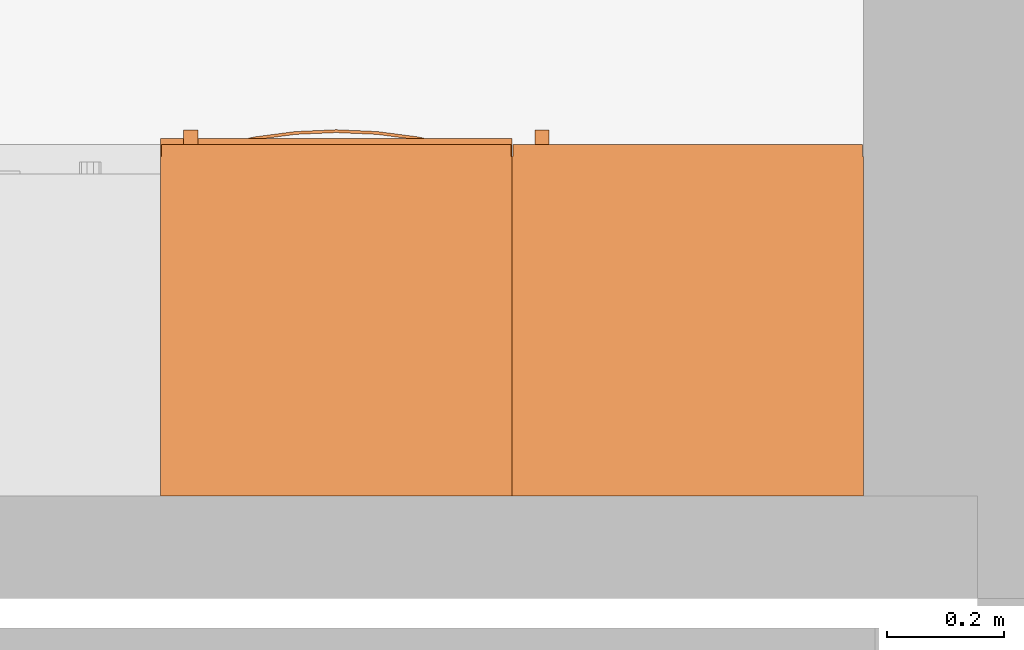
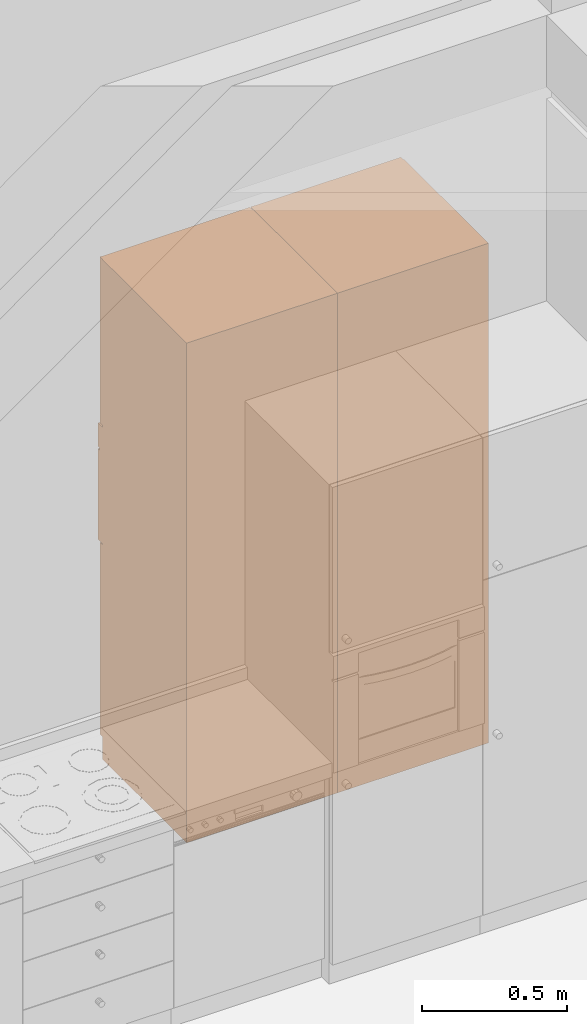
# One storey, part 26 of 28: 2 proxies.
"""IFC4 building model written with IfcOpenShell, lengths in metres."""

from ifc_helpers import new_model, entity, si_unit, converted_unit, derived_unit, direction, frame, origin_with_axes, place, context, subcontext, project, spatial, triangles, type_object, element, save


model = new_model("IFC4")

# Units and contexts
model_context = context("Model", 3, precision=1e-05, world=origin_with_axes(), true_north=direction((-0.526213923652, 0.850352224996)))
body_context = subcontext(model_context, "Body", "Model", "MODEL_VIEW")
ifc_project = project(units=[si_unit("LENGTHUNIT", "METRE"), si_unit("AREAUNIT", "SQUARE_METRE"), si_unit("VOLUMEUNIT", "CUBIC_METRE"), converted_unit("PLANEANGLEUNIT", "DEGREE", entity("IfcPlaneAngleMeasure", 0.0174532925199), si_unit("PLANEANGLEUNIT", "RADIAN"), dimensions=[0, 0, 0, 0, 0, 0, 0]), si_unit("SOLIDANGLEUNIT", "STERADIAN"), converted_unit("TIMEUNIT", "Year", entity("IfcTimeMeasure", 31556926.0), si_unit("TIMEUNIT", "SECOND"), dimensions=[0, 0, 1, 0, 0, 0, 0]), si_unit("MASSUNIT", "GRAM", prefix="KILO"), si_unit("THERMODYNAMICTEMPERATUREUNIT", "DEGREE_CELSIUS"), si_unit("LUMINOUSINTENSITYUNIT", "LUMEN"), si_unit("ENERGYUNIT", "JOULE", prefix="MEGA"), derived_unit("THERMALCONDUCTANCEUNIT", [(si_unit("POWERUNIT", "WATT"), 1), (si_unit("LENGTHUNIT", "METRE"), -1), (si_unit("THERMODYNAMICTEMPERATUREUNIT", "KELVIN"), -1)]), derived_unit("SPECIFICHEATCAPACITYUNIT", [(si_unit("ENERGYUNIT", "JOULE"), 1), (si_unit("MASSUNIT", "GRAM", prefix="KILO"), -1), (si_unit("THERMODYNAMICTEMPERATUREUNIT", "KELVIN"), -1)]), derived_unit("MASSDENSITYUNIT", [(si_unit("MASSUNIT", "GRAM", prefix="KILO"), 1), (si_unit("VOLUMEUNIT", "CUBIC_METRE"), -1)])], contexts=[model_context])

# Site, building, storey, space
site_placement = place(None, origin_with_axes())
site = spatial("IfcSite", under=ifc_project, at=site_placement, Name="Gelände", CompositionType="ELEMENT")
building_placement = place(site_placement, origin_with_axes())
building = spatial("IfcBuilding", under=site, at=building_placement, Name="Haus vom Nikolaus", CompositionType="ELEMENT")
storey_placement = place(building_placement, origin_with_axes())
storey = spatial("IfcBuildingStorey", under=building, at=storey_placement, Name="EG", CompositionType="ELEMENT", Elevation=0.0)
space_placement = place(storey_placement, frame((-3.09538684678, 5.36483190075, 0.0), z_axis=(0.0, 0.0, 1.0), x_axis=(1.0, 0.0, 0.0)))
space = spatial("IfcSpace", under=storey, at=space_placement, Name="EG", CompositionType="ELEMENT")

# Proxies
building_element_proxy_type_1 = type_object("IfcBuildingElementProxyType", Name="Hochschrank Einzeltür 22", PredefinedType="NOTDEFINED")
proxy_1_placement = place(space_placement, frame((14.1603844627, 2.87500017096, 0.2), z_axis=(0.0, 0.0, 1.0), x_axis=(-1.0, 0.0, 0.0)))
element("IfcBuildingElementProxy", 1, at=proxy_1_placement, inside=space, type_object=building_element_proxy_type_1, Name="Küche-009", PredefinedType="NOTDEFINED", context=body_context, shape_type="Tessellation", body=[
    triangles([(0.58, 0.02, 1.51), (0.02, 0.02, 1.49), (0.58, 0.02, 1.49), (0.02, 0.02, 1.51), (0.58, 0.58, 1.49), (0.02, 0.58, 1.49), (0.58, 0.58, 1.51), (0.02, 0.58, 1.51)], [[1, 2, 3], [1, 4, 2], [5, 2, 6], [5, 3, 2], [7, 3, 5], [7, 1, 3], [7, 4, 1], [7, 8, 4], [4, 6, 2], [4, 8, 6], [8, 5, 6], [8, 7, 5]], closed=True),
    triangles([(0.6, 0.02, 0.09), (0.0, 0.02, 0.0), (0.6, 0.02, 0.0), (0.0, 0.02, 0.09), (0.6, 0.6, 0.0), (0.0, 0.6, 0.0), (0.6, 0.6, 0.09), (0.0, 0.6, 0.09)], [[1, 2, 3], [1, 4, 2], [5, 2, 6], [5, 3, 2], [7, 3, 5], [7, 1, 3], [7, 4, 1], [7, 8, 4], [4, 6, 2], [4, 8, 6], [8, 5, 6], [8, 7, 5]], closed=True),
    triangles([(0.02, 0.02, 2.1), (0.0, 0.02, 2.08), (0.02, 0.02, 2.08), (0.0, 0.02, 2.1), (0.02, 0.6, 2.08), (0.58, 0.02, 2.08), (0.58, 0.6, 2.08), (0.0, 0.6, 2.08), (0.6, 0.02, 2.08), (0.6, 0.6, 2.08), (0.58, 0.02, 2.1), (0.0, 0.6, 2.1), (0.02, 0.6, 2.1), (0.58, 0.6, 2.1), (0.6, 0.6, 2.1), (0.6, 0.02, 2.1)], [[1, 2, 3], [1, 4, 2], [3, 2, 5], [6, 5, 7], [5, 2, 8], [9, 7, 10], [6, 7, 9], [3, 5, 6], [11, 3, 6], [11, 1, 3], [12, 4, 13], [14, 11, 15], [11, 14, 1], [15, 11, 16], [1, 13, 4], [13, 1, 14], [4, 8, 2], [4, 12, 8], [12, 5, 8], [12, 13, 5], [13, 7, 5], [13, 14, 7], [14, 10, 7], [14, 15, 10], [15, 9, 10], [15, 16, 9], [16, 6, 9], [16, 11, 6]], closed=True),
    triangles([(0.02, 0.02, 0.11), (0.0, 0.02, 0.09), (0.02, 0.02, 0.09), (0.0, 0.02, 0.11), (0.02, 0.6, 0.09), (0.58, 0.02, 0.09), (0.58, 0.6, 0.09), (0.0, 0.6, 0.09), (0.6, 0.02, 0.09), (0.6, 0.6, 0.09), (0.58, 0.02, 0.11), (0.0, 0.6, 0.11), (0.02, 0.6, 0.11), (0.58, 0.6, 0.11), (0.6, 0.6, 0.11), (0.6, 0.02, 0.11)], [[1, 2, 3], [1, 4, 2], [3, 2, 5], [6, 5, 7], [5, 2, 8], [9, 7, 10], [6, 7, 9], [3, 5, 6], [11, 3, 6], [11, 1, 3], [12, 4, 13], [14, 11, 15], [11, 14, 1], [15, 11, 16], [1, 13, 4], [13, 1, 14], [4, 8, 2], [4, 12, 8], [12, 5, 8], [12, 13, 5], [13, 7, 5], [13, 14, 7], [14, 10, 7], [14, 15, 10], [15, 9, 10], [15, 16, 9], [16, 6, 9], [16, 11, 6]], closed=True),
    triangles([(0.02, 0.02, 2.08), (0.0, 0.02, 0.11), (0.02, 0.02, 0.11), (0.0, 0.02, 2.08), (0.02, 0.58, 0.11), (0.58, 0.58, 0.11), (0.6, 0.02, 0.11), (0.58, 0.02, 0.11), (0.0, 0.6, 0.11), (0.6, 0.6, 0.11), (0.02, 0.58, 2.08), (0.0, 0.6, 2.08), (0.6, 0.6, 2.08), (0.58, 0.58, 2.08), (0.6, 0.02, 2.08), (0.58, 0.02, 2.08)], [[1, 2, 3], [1, 4, 2], [3, 2, 5], [6, 7, 8], [6, 9, 10], [7, 6, 10], [5, 2, 9], [6, 5, 9], [11, 3, 5], [11, 1, 3], [12, 4, 11], [13, 12, 11], [11, 4, 1], [13, 11, 14], [15, 13, 14], [15, 14, 16], [4, 9, 2], [4, 12, 9], [12, 10, 9], [12, 13, 10], [13, 7, 10], [13, 15, 7], [15, 8, 7], [15, 16, 8], [16, 6, 8], [16, 14, 6], [14, 5, 6], [14, 11, 5]], closed=True),
    triangles([(0.58, 0.58, 0.566666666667), (0.58, 0.02, 0.546666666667), (0.58, 0.58, 0.546666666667), (0.58, 0.02, 0.566666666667), (0.02, 0.58, 0.546666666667), (0.02, 0.02, 0.546666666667), (0.02, 0.58, 0.566666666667), (0.02, 0.02, 0.566666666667)], [[1, 2, 3], [1, 4, 2], [5, 2, 6], [5, 3, 2], [7, 3, 5], [7, 1, 3], [7, 4, 1], [7, 8, 4], [4, 6, 2], [4, 8, 6], [8, 5, 6], [8, 7, 5]], closed=True),
    triangles([(0.58, 0.58, 1.04333333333), (0.58, 0.02, 1.02333333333), (0.58, 0.58, 1.02333333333), (0.58, 0.02, 1.04333333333), (0.02, 0.58, 1.02333333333), (0.02, 0.02, 1.02333333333), (0.02, 0.58, 1.04333333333), (0.02, 0.02, 1.04333333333)], [[1, 2, 3], [1, 4, 2], [5, 2, 6], [5, 3, 2], [7, 3, 5], [7, 1, 3], [7, 4, 1], [7, 8, 4], [4, 6, 2], [4, 8, 6], [8, 5, 6], [8, 7, 5]], closed=True),
    triangles([(0.5985, 0.0, 0.0915), (0.0015, 0.02, 0.0915), (0.5985, 0.02, 0.0915), (0.0015, 0.0, 0.0915), (0.5985, 0.02, 1.4985), (0.0015, 0.02, 1.4985), (0.5985, 0.0, 1.4985), (0.0015, 0.0, 1.4985)], [[1, 2, 3], [1, 4, 2], [5, 2, 6], [5, 3, 2], [7, 3, 5], [7, 1, 3], [7, 4, 1], [7, 8, 4], [4, 6, 2], [4, 8, 6], [8, 5, 6], [8, 7, 5]], closed=True),
    triangles([(0.538107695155, 0.0, 0.8355), (0.5365, 0.0, 0.8415), (0.540014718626, 0.0, 0.833014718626), (0.551605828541, 0.0, 0.829908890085), (0.556985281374, 0.0, 0.833014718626), (0.5545, 0.0, 0.831107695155), (0.560091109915, 0.0, 0.838394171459), (0.558892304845, 0.0, 0.8355), (0.5485, 0.0, 0.8295), (0.545394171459, 0.0, 0.829908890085), (0.5425, 0.0, 0.831107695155), (0.540014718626, 0.0, 0.849985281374), (0.536908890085, 0.0, 0.844605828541), (0.538107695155, 0.0, 0.8475), (0.536908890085, 0.0, 0.838394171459), (0.556985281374, 0.0, 0.849985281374), (0.545394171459, 0.0, 0.853091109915), (0.551605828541, 0.0, 0.853091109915), (0.5425, 0.0, 0.851892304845), (0.5485, 0.0, 0.8535), (0.5545, 0.0, 0.851892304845), (0.560091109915, 0.0, 0.844605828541), (0.558892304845, 0.0, 0.8475), (0.5605, 0.0, 0.8415), (0.560091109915, -0.025, 0.838394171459), (0.558892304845, -0.025, 0.8355), (0.556985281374, -0.025, 0.833014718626), (0.5545, -0.025, 0.831107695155), (0.551605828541, -0.025, 0.829908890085), (0.5485, -0.025, 0.8295), (0.545394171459, -0.025, 0.829908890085), (0.5425, -0.025, 0.831107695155), (0.540014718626, -0.025, 0.833014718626), (0.538107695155, -0.025, 0.8355), (0.536908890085, -0.025, 0.838394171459), (0.5365, -0.025, 0.8415), (0.536908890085, -0.025, 0.844605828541), (0.538107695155, -0.025, 0.8475), (0.540014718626, -0.025, 0.849985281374), (0.5425, -0.025, 0.851892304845), (0.545394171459, -0.025, 0.853091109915), (0.5485, -0.025, 0.8535), (0.551605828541, -0.025, 0.853091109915), (0.5545, -0.025, 0.851892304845), (0.556985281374, -0.025, 0.849985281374), (0.558892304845, -0.025, 0.8475), (0.560091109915, -0.025, 0.844605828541), (0.5605, -0.025, 0.8415)], [[1, 2, 3], [4, 5, 6], [5, 7, 8], [9, 5, 4], [3, 10, 11], [10, 3, 9], [9, 3, 5], [12, 13, 14], [13, 12, 2], [2, 1, 15], [2, 12, 3], [16, 3, 12], [16, 17, 18], [17, 12, 19], [18, 17, 20], [17, 16, 12], [16, 18, 21], [3, 16, 5], [22, 5, 16], [22, 16, 23], [5, 22, 7], [24, 7, 22], [25, 8, 7], [25, 26, 8], [26, 5, 8], [26, 27, 5], [27, 6, 5], [27, 28, 6], [28, 4, 6], [28, 29, 4], [29, 9, 4], [29, 30, 9], [30, 10, 9], [30, 31, 10], [31, 11, 10], [31, 32, 11], [32, 3, 11], [32, 33, 3], [33, 1, 3], [33, 34, 1], [34, 15, 1], [34, 35, 15], [35, 2, 15], [35, 36, 2], [36, 13, 2], [36, 37, 13], [37, 14, 13], [37, 38, 14], [38, 12, 14], [38, 39, 12], [39, 19, 12], [39, 40, 19], [40, 17, 19], [40, 41, 17], [41, 20, 17], [41, 42, 20], [42, 18, 20], [42, 43, 18], [43, 21, 18], [43, 44, 21], [44, 16, 21], [44, 45, 16], [45, 23, 16], [45, 46, 23], [46, 22, 23], [46, 47, 22], [47, 24, 22], [47, 48, 24], [25, 24, 48], [24, 25, 7], [36, 33, 39], [45, 48, 46], [46, 48, 47], [27, 48, 45], [42, 44, 43], [44, 42, 45], [40, 42, 41], [42, 40, 45], [37, 39, 38], [39, 45, 40], [36, 39, 37], [33, 36, 35], [33, 35, 34], [39, 33, 45], [30, 27, 33], [31, 33, 32], [27, 30, 29], [30, 33, 31], [33, 27, 45], [27, 29, 28], [48, 27, 25], [26, 25, 27]], closed=True),
    triangles([(0.5985, 0.0, 1.5015), (0.0015, 0.02, 1.5015), (0.5985, 0.02, 1.5015), (0.0015, 0.0, 1.5015), (0.5985, 0.02, 2.0985), (0.0015, 0.02, 2.0985), (0.5985, 0.0, 2.0985), (0.0015, 0.0, 2.0985)], [[1, 2, 3], [1, 4, 2], [5, 2, 6], [5, 3, 2], [7, 3, 5], [7, 1, 3], [7, 4, 1], [7, 8, 4], [4, 6, 2], [4, 8, 6], [8, 5, 6], [8, 7, 5]], closed=True),
    triangles([(0.5365, 0.0, 1.5515), (0.538107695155, 0.0, 1.5455), (0.536908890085, 0.0, 1.54839417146), (0.551605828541, 0.0, 1.53990889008), (0.556985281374, 0.0, 1.54301471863), (0.5545, 0.0, 1.54110769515), (0.560091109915, 0.0, 1.54839417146), (0.558892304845, 0.0, 1.5455), (0.545394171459, 0.0, 1.53990889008), (0.5485, 0.0, 1.5395), (0.540014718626, 0.0, 1.54301471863), (0.5425, 0.0, 1.54110769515), (0.538107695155, 0.0, 1.5575), (0.536908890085, 0.0, 1.55460582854), (0.551605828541, 0.0, 1.56309110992), (0.5485, 0.0, 1.5635), (0.540014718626, 0.0, 1.55998528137), (0.5425, 0.0, 1.56189230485), (0.545394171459, 0.0, 1.56309110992), (0.560091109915, 0.0, 1.55460582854), (0.5545, 0.0, 1.56189230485), (0.556985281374, 0.0, 1.55998528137), (0.558892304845, 0.0, 1.5575), (0.5605, 0.0, 1.5515), (0.560091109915, -0.025, 1.54839417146), (0.558892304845, -0.025, 1.5455), (0.556985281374, -0.025, 1.54301471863), (0.5545, -0.025, 1.54110769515), (0.551605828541, -0.025, 1.53990889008), (0.5485, -0.025, 1.5395), (0.545394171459, -0.025, 1.53990889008), (0.5425, -0.025, 1.54110769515), (0.540014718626, -0.025, 1.54301471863), (0.538107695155, -0.025, 1.5455), (0.536908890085, -0.025, 1.54839417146), (0.5365, -0.025, 1.5515), (0.536908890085, -0.025, 1.55460582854), (0.538107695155, -0.025, 1.5575), (0.540014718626, -0.025, 1.55998528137), (0.5425, -0.025, 1.56189230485), (0.545394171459, -0.025, 1.56309110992), (0.5485, -0.025, 1.5635), (0.551605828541, -0.025, 1.56309110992), (0.5545, -0.025, 1.56189230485), (0.556985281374, -0.025, 1.55998528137), (0.558892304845, -0.025, 1.5575), (0.560091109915, -0.025, 1.55460582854), (0.5605, -0.025, 1.5515)], [[1, 2, 3], [4, 5, 6], [5, 7, 8], [5, 4, 7], [9, 4, 10], [11, 9, 12], [9, 11, 4], [4, 11, 7], [13, 1, 14], [15, 2, 16], [1, 13, 2], [16, 13, 17], [13, 16, 2], [16, 18, 19], [18, 16, 17], [2, 15, 11], [20, 15, 21], [20, 11, 15], [20, 21, 22], [20, 22, 23], [24, 11, 20], [11, 24, 7], [25, 8, 7], [25, 26, 8], [26, 5, 8], [26, 27, 5], [27, 6, 5], [27, 28, 6], [28, 4, 6], [28, 29, 4], [29, 10, 4], [29, 30, 10], [30, 9, 10], [30, 31, 9], [31, 12, 9], [31, 32, 12], [32, 11, 12], [32, 33, 11], [33, 2, 11], [33, 34, 2], [34, 3, 2], [34, 35, 3], [35, 1, 3], [35, 36, 1], [36, 14, 1], [36, 37, 14], [37, 13, 14], [37, 38, 13], [38, 17, 13], [38, 39, 17], [39, 18, 17], [39, 40, 18], [40, 19, 18], [40, 41, 19], [41, 16, 19], [41, 42, 16], [42, 15, 16], [42, 43, 15], [43, 21, 15], [43, 44, 21], [44, 22, 21], [44, 45, 22], [46, 22, 45], [22, 46, 23], [46, 20, 23], [46, 47, 20], [47, 24, 20], [47, 48, 24], [48, 7, 24], [48, 25, 7], [37, 39, 38], [43, 46, 45], [43, 28, 47], [43, 45, 44], [46, 43, 47], [33, 28, 34], [41, 43, 42], [34, 37, 36], [39, 37, 41], [39, 41, 40], [37, 34, 41], [28, 33, 30], [34, 36, 35], [34, 28, 41], [41, 28, 43], [30, 33, 32], [27, 47, 28], [30, 32, 31], [28, 30, 29], [47, 27, 48], [26, 48, 27], [48, 26, 25]], closed=True),
])
building_element_proxy_type_2 = type_object("IfcBuildingElementProxyType", Name="Hochschrank Einzeltür mit Backofen 22", PredefinedType="NOTDEFINED")
proxy_2_placement = place(space_placement, frame((13.5603844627, 2.87500017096, 0.2), z_axis=(0.0, 0.0, 1.0), x_axis=(-1.0, 0.0, 0.0)))
element("IfcBuildingElementProxy", 2, at=proxy_2_placement, inside=space, type_object=building_element_proxy_type_2, Name="Küche-008", PredefinedType="NOTDEFINED", context=body_context, shape_type="Tessellation", body=[
    triangles([(0.58, 0.02, 1.41), (0.02, 0.02, 1.39), (0.58, 0.02, 1.39), (0.02, 0.02, 1.41), (0.58, 0.58, 1.39), (0.02, 0.58, 1.39), (0.58, 0.58, 1.41), (0.02, 0.58, 1.41)], [[1, 2, 3], [1, 4, 2], [5, 2, 6], [5, 3, 2], [7, 3, 5], [7, 1, 3], [7, 4, 1], [7, 8, 4], [4, 6, 2], [4, 8, 6], [8, 5, 6], [8, 7, 5]], closed=True),
    triangles([(0.58, 0.02, 0.91), (0.02, 0.02, 0.89), (0.58, 0.02, 0.89), (0.02, 0.02, 0.91), (0.58, 0.58, 0.89), (0.02, 0.58, 0.89), (0.58, 0.58, 0.91), (0.02, 0.58, 0.91)], [[1, 2, 3], [1, 4, 2], [5, 2, 6], [5, 3, 2], [7, 3, 5], [7, 1, 3], [7, 4, 1], [7, 8, 4], [4, 6, 2], [4, 8, 6], [8, 5, 6], [8, 7, 5]], closed=True),
    triangles([(0.6, 0.02, 0.09), (0.0, 0.02, 0.0), (0.6, 0.02, 0.0), (0.0, 0.02, 0.09), (0.6, 0.6, 0.0), (0.0, 0.6, 0.0), (0.6, 0.6, 0.09), (0.0, 0.6, 0.09)], [[1, 2, 3], [1, 4, 2], [5, 2, 6], [5, 3, 2], [7, 3, 5], [7, 1, 3], [7, 4, 1], [7, 8, 4], [4, 6, 2], [4, 8, 6], [8, 5, 6], [8, 7, 5]], closed=True),
    triangles([(0.02, 0.02, 2.1), (0.0, 0.02, 2.08), (0.02, 0.02, 2.08), (0.0, 0.02, 2.1), (0.02, 0.6, 2.08), (0.58, 0.02, 2.08), (0.58, 0.6, 2.08), (0.0, 0.6, 2.08), (0.6, 0.02, 2.08), (0.6, 0.6, 2.08), (0.58, 0.02, 2.1), (0.0, 0.6, 2.1), (0.02, 0.6, 2.1), (0.58, 0.6, 2.1), (0.6, 0.6, 2.1), (0.6, 0.02, 2.1)], [[1, 2, 3], [1, 4, 2], [3, 2, 5], [6, 5, 7], [5, 2, 8], [9, 7, 10], [6, 7, 9], [3, 5, 6], [11, 3, 6], [11, 1, 3], [12, 4, 13], [14, 11, 15], [11, 14, 1], [15, 11, 16], [1, 13, 4], [13, 1, 14], [4, 8, 2], [4, 12, 8], [12, 5, 8], [12, 13, 5], [13, 7, 5], [13, 14, 7], [14, 10, 7], [14, 15, 10], [15, 9, 10], [15, 16, 9], [16, 6, 9], [16, 11, 6]], closed=True),
    triangles([(0.02, 0.02, 0.11), (0.0, 0.02, 0.09), (0.02, 0.02, 0.09), (0.0, 0.02, 0.11), (0.02, 0.6, 0.09), (0.58, 0.02, 0.09), (0.58, 0.6, 0.09), (0.0, 0.6, 0.09), (0.6, 0.02, 0.09), (0.6, 0.6, 0.09), (0.58, 0.02, 0.11), (0.0, 0.6, 0.11), (0.02, 0.6, 0.11), (0.58, 0.6, 0.11), (0.6, 0.6, 0.11), (0.6, 0.02, 0.11)], [[1, 2, 3], [1, 4, 2], [3, 2, 5], [6, 5, 7], [5, 2, 8], [9, 7, 10], [6, 7, 9], [3, 5, 6], [11, 3, 6], [11, 1, 3], [12, 4, 13], [14, 11, 15], [11, 14, 1], [15, 11, 16], [1, 13, 4], [13, 1, 14], [4, 8, 2], [4, 12, 8], [12, 5, 8], [12, 13, 5], [13, 7, 5], [13, 14, 7], [14, 10, 7], [14, 15, 10], [15, 9, 10], [15, 16, 9], [16, 6, 9], [16, 11, 6]], closed=True),
    triangles([(0.02, 0.02, 2.08), (0.0, 0.02, 0.11), (0.02, 0.02, 0.11), (0.0, 0.02, 2.08), (0.02, 0.58, 0.11), (0.58, 0.58, 0.11), (0.6, 0.02, 0.11), (0.58, 0.02, 0.11), (0.0, 0.6, 0.11), (0.6, 0.6, 0.11), (0.02, 0.58, 2.08), (0.0, 0.6, 2.08), (0.6, 0.6, 2.08), (0.58, 0.58, 2.08), (0.6, 0.02, 2.08), (0.58, 0.02, 2.08)], [[1, 2, 3], [1, 4, 2], [3, 2, 5], [6, 7, 8], [6, 9, 10], [7, 6, 10], [5, 2, 9], [6, 5, 9], [11, 3, 5], [11, 1, 3], [12, 4, 11], [13, 12, 11], [11, 4, 1], [13, 11, 14], [15, 13, 14], [15, 14, 16], [4, 9, 2], [4, 12, 9], [12, 10, 9], [12, 13, 10], [13, 7, 10], [13, 15, 7], [15, 8, 7], [15, 16, 8], [16, 6, 8], [16, 14, 6], [14, 5, 6], [14, 11, 5]], closed=True),
    triangles([(0.58, 0.58, 0.366666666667), (0.58, 0.02, 0.346666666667), (0.58, 0.58, 0.346666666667), (0.58, 0.02, 0.366666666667), (0.02, 0.58, 0.346666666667), (0.02, 0.02, 0.346666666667), (0.02, 0.58, 0.366666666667), (0.02, 0.02, 0.366666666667)], [[1, 2, 3], [1, 4, 2], [5, 2, 6], [5, 3, 2], [7, 3, 5], [7, 1, 3], [7, 4, 1], [7, 8, 4], [4, 6, 2], [4, 8, 6], [8, 5, 6], [8, 7, 5]], closed=True),
    triangles([(0.58, 0.58, 0.643333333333), (0.58, 0.02, 0.623333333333), (0.58, 0.58, 0.623333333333), (0.58, 0.02, 0.643333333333), (0.02, 0.58, 0.623333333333), (0.02, 0.02, 0.623333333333), (0.02, 0.58, 0.643333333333), (0.02, 0.02, 0.643333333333)], [[1, 2, 3], [1, 4, 2], [5, 2, 6], [5, 3, 2], [7, 3, 5], [7, 1, 3], [7, 4, 1], [7, 8, 4], [4, 6, 2], [4, 8, 6], [8, 5, 6], [8, 7, 5]], closed=True),
    triangles([(0.5985, 0.0, 0.0915), (0.0015, 0.02, 0.0915), (0.5985, 0.02, 0.0915), (0.0015, 0.0, 0.0915), (0.5985, 0.02, 0.8985), (0.0015, 0.02, 0.8985), (0.5985, 0.0, 0.8985), (0.0015, 0.0, 0.8985)], [[1, 2, 3], [1, 4, 2], [5, 2, 6], [5, 3, 2], [7, 3, 5], [7, 1, 3], [7, 4, 1], [7, 8, 4], [4, 6, 2], [4, 8, 6], [8, 5, 6], [8, 7, 5]], closed=True),
    triangles([(0.538107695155, 0.0, 0.8355), (0.5365, 0.0, 0.8415), (0.540014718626, 0.0, 0.833014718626), (0.551605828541, 0.0, 0.829908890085), (0.556985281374, 0.0, 0.833014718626), (0.5545, 0.0, 0.831107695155), (0.560091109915, 0.0, 0.838394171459), (0.558892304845, 0.0, 0.8355), (0.5485, 0.0, 0.8295), (0.545394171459, 0.0, 0.829908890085), (0.5425, 0.0, 0.831107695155), (0.540014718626, 0.0, 0.849985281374), (0.536908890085, 0.0, 0.844605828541), (0.538107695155, 0.0, 0.8475), (0.536908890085, 0.0, 0.838394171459), (0.556985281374, 0.0, 0.849985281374), (0.545394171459, 0.0, 0.853091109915), (0.551605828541, 0.0, 0.853091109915), (0.5425, 0.0, 0.851892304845), (0.5485, 0.0, 0.8535), (0.5545, 0.0, 0.851892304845), (0.560091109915, 0.0, 0.844605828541), (0.558892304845, 0.0, 0.8475), (0.5605, 0.0, 0.8415), (0.560091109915, -0.025, 0.838394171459), (0.558892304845, -0.025, 0.8355), (0.556985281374, -0.025, 0.833014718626), (0.5545, -0.025, 0.831107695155), (0.551605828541, -0.025, 0.829908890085), (0.5485, -0.025, 0.8295), (0.545394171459, -0.025, 0.829908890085), (0.5425, -0.025, 0.831107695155), (0.540014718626, -0.025, 0.833014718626), (0.538107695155, -0.025, 0.8355), (0.536908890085, -0.025, 0.838394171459), (0.5365, -0.025, 0.8415), (0.536908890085, -0.025, 0.844605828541), (0.538107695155, -0.025, 0.8475), (0.540014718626, -0.025, 0.849985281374), (0.5425, -0.025, 0.851892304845), (0.545394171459, -0.025, 0.853091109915), (0.5485, -0.025, 0.8535), (0.551605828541, -0.025, 0.853091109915), (0.5545, -0.025, 0.851892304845), (0.556985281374, -0.025, 0.849985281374), (0.558892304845, -0.025, 0.8475), (0.560091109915, -0.025, 0.844605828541), (0.5605, -0.025, 0.8415)], [[1, 2, 3], [4, 5, 6], [5, 7, 8], [9, 5, 4], [3, 10, 11], [10, 3, 9], [9, 3, 5], [12, 13, 14], [13, 12, 2], [2, 1, 15], [2, 12, 3], [16, 3, 12], [16, 17, 18], [17, 12, 19], [18, 17, 20], [17, 16, 12], [16, 18, 21], [3, 16, 5], [22, 5, 16], [22, 16, 23], [5, 22, 7], [24, 7, 22], [25, 8, 7], [25, 26, 8], [26, 5, 8], [26, 27, 5], [27, 6, 5], [27, 28, 6], [28, 4, 6], [28, 29, 4], [29, 9, 4], [29, 30, 9], [30, 10, 9], [30, 31, 10], [31, 11, 10], [31, 32, 11], [32, 3, 11], [32, 33, 3], [33, 1, 3], [33, 34, 1], [34, 15, 1], [34, 35, 15], [35, 2, 15], [35, 36, 2], [36, 13, 2], [36, 37, 13], [37, 14, 13], [37, 38, 14], [38, 12, 14], [38, 39, 12], [39, 19, 12], [39, 40, 19], [40, 17, 19], [40, 41, 17], [41, 20, 17], [41, 42, 20], [42, 18, 20], [42, 43, 18], [43, 21, 18], [43, 44, 21], [44, 16, 21], [44, 45, 16], [45, 23, 16], [45, 46, 23], [46, 22, 23], [46, 47, 22], [47, 24, 22], [47, 48, 24], [25, 24, 48], [24, 25, 7], [36, 33, 39], [45, 48, 46], [46, 48, 47], [27, 48, 45], [42, 44, 43], [44, 42, 45], [40, 42, 41], [42, 40, 45], [37, 39, 38], [39, 45, 40], [36, 39, 37], [33, 36, 35], [33, 35, 34], [39, 33, 45], [30, 27, 33], [31, 33, 32], [27, 30, 29], [30, 33, 31], [33, 27, 45], [27, 29, 28], [48, 27, 25], [26, 25, 27]], closed=True),
    triangles([(0.5985, 0.0, 1.4015), (0.0015, 0.02, 1.4015), (0.5985, 0.02, 1.4015), (0.0015, 0.0, 1.4015), (0.5985, 0.02, 2.0985), (0.0015, 0.02, 2.0985), (0.5985, 0.0, 2.0985), (0.0015, 0.0, 2.0985)], [[1, 2, 3], [1, 4, 2], [5, 2, 6], [5, 3, 2], [7, 3, 5], [7, 1, 3], [7, 4, 1], [7, 8, 4], [4, 6, 2], [4, 8, 6], [8, 5, 6], [8, 7, 5]], closed=True),
    triangles([(0.5365, 0.0, 1.4515), (0.538107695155, 0.0, 1.4455), (0.536908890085, 0.0, 1.44839417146), (0.551605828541, 0.0, 1.43990889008), (0.556985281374, 0.0, 1.44301471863), (0.5545, 0.0, 1.44110769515), (0.560091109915, 0.0, 1.44839417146), (0.558892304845, 0.0, 1.4455), (0.545394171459, 0.0, 1.43990889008), (0.5485, 0.0, 1.4395), (0.540014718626, 0.0, 1.44301471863), (0.5425, 0.0, 1.44110769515), (0.538107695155, 0.0, 1.4575), (0.536908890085, 0.0, 1.45460582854), (0.551605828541, 0.0, 1.46309110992), (0.5485, 0.0, 1.4635), (0.540014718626, 0.0, 1.45998528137), (0.5425, 0.0, 1.46189230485), (0.545394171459, 0.0, 1.46309110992), (0.560091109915, 0.0, 1.45460582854), (0.5545, 0.0, 1.46189230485), (0.556985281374, 0.0, 1.45998528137), (0.558892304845, 0.0, 1.4575), (0.5605, 0.0, 1.4515), (0.560091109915, -0.025, 1.44839417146), (0.558892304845, -0.025, 1.4455), (0.556985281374, -0.025, 1.44301471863), (0.5545, -0.025, 1.44110769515), (0.551605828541, -0.025, 1.43990889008), (0.5485, -0.025, 1.4395), (0.545394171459, -0.025, 1.43990889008), (0.5425, -0.025, 1.44110769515), (0.540014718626, -0.025, 1.44301471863), (0.538107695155, -0.025, 1.4455), (0.536908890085, -0.025, 1.44839417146), (0.5365, -0.025, 1.4515), (0.536908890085, -0.025, 1.45460582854), (0.538107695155, -0.025, 1.4575), (0.540014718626, -0.025, 1.45998528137), (0.5425, -0.025, 1.46189230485), (0.545394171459, -0.025, 1.46309110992), (0.5485, -0.025, 1.4635), (0.551605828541, -0.025, 1.46309110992), (0.5545, -0.025, 1.46189230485), (0.556985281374, -0.025, 1.45998528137), (0.558892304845, -0.025, 1.4575), (0.560091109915, -0.025, 1.45460582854), (0.5605, -0.025, 1.4515)], [[1, 2, 3], [4, 5, 6], [5, 7, 8], [5, 4, 7], [9, 4, 10], [11, 9, 12], [9, 11, 4], [4, 11, 7], [13, 1, 14], [15, 2, 16], [1, 13, 2], [16, 13, 17], [13, 16, 2], [16, 18, 19], [18, 16, 17], [2, 15, 11], [20, 15, 21], [20, 11, 15], [20, 21, 22], [20, 22, 23], [24, 11, 20], [11, 24, 7], [25, 8, 7], [25, 26, 8], [27, 8, 26], [8, 27, 5], [27, 6, 5], [27, 28, 6], [28, 4, 6], [28, 29, 4], [29, 10, 4], [29, 30, 10], [30, 9, 10], [30, 31, 9], [31, 12, 9], [31, 32, 12], [32, 11, 12], [32, 33, 11], [33, 2, 11], [33, 34, 2], [34, 3, 2], [34, 35, 3], [35, 1, 3], [35, 36, 1], [36, 14, 1], [36, 37, 14], [37, 13, 14], [37, 38, 13], [38, 17, 13], [38, 39, 17], [39, 18, 17], [39, 40, 18], [40, 19, 18], [40, 41, 19], [41, 16, 19], [41, 42, 16], [42, 15, 16], [42, 43, 15], [43, 21, 15], [43, 44, 21], [44, 22, 21], [44, 45, 22], [45, 23, 22], [45, 46, 23], [46, 20, 23], [46, 47, 20], [47, 24, 20], [47, 48, 24], [48, 7, 24], [48, 25, 7], [37, 39, 38], [45, 48, 46], [46, 48, 47], [42, 45, 43], [43, 45, 44], [40, 45, 42], [40, 42, 41], [45, 40, 48], [39, 37, 40], [34, 40, 37], [34, 37, 35], [35, 37, 36], [40, 34, 48], [28, 30, 29], [30, 34, 33], [31, 33, 32], [30, 28, 34], [30, 33, 31], [34, 28, 48], [27, 48, 28], [48, 27, 25], [26, 25, 27]], closed=True),
    triangles([(0.6, 0.0, 0.905), (0.0, 0.02, 0.905), (0.6, 0.02, 0.905), (0.0, 0.0, 0.905), (0.11, 0.02, 1.003), (0.11, 0.02, 1.199), (0.0, 0.02, 1.395), (0.6, 0.02, 1.395), (0.49, 0.02, 1.199), (0.49, 0.02, 1.003), (0.6, 0.0, 1.395), (0.11, 0.0, 1.199), (0.11, 0.0, 1.003), (0.0, 0.0, 1.395), (0.49, 0.0, 1.199), (0.49, 0.0, 1.003)], [[1, 2, 3], [1, 4, 2], [5, 3, 2], [6, 2, 7], [6, 8, 9], [9, 3, 10], [5, 10, 3], [3, 9, 8], [2, 6, 5], [8, 6, 7], [11, 3, 8], [11, 1, 3], [12, 4, 13], [1, 13, 4], [12, 11, 14], [4, 12, 14], [15, 1, 11], [12, 15, 11], [16, 13, 1], [15, 16, 1], [4, 7, 2], [4, 14, 7], [14, 8, 7], [14, 11, 8], [13, 10, 5], [13, 16, 10], [16, 9, 10], [16, 15, 9], [15, 6, 9], [15, 12, 6], [12, 5, 6], [12, 13, 5]], closed=True),
    triangles([(0.49, 0.005, 1.003), (0.11, 0.015, 1.003), (0.49, 0.015, 1.003), (0.11, 0.005, 1.003), (0.49, 0.015, 1.199), (0.11, 0.015, 1.199), (0.49, 0.005, 1.199), (0.11, 0.005, 1.199)], [[1, 2, 3], [1, 4, 2], [5, 2, 6], [5, 3, 2], [7, 3, 5], [7, 1, 3], [7, 4, 1], [7, 8, 4], [4, 6, 2], [4, 8, 6], [8, 5, 6], [8, 7, 5]], closed=True),
    triangles([(0.1, -0.01, 1.287), (0.0, -0.01, 0.905), (0.1, -0.01, 0.905), (0.0, -0.01, 1.287), (0.1, 0.0, 0.905), (0.0, 0.0, 0.905), (0.1, 0.0, 1.287), (0.0, 0.0, 1.287)], [[1, 2, 3], [1, 4, 2], [5, 2, 6], [5, 3, 2], [7, 3, 5], [7, 1, 3], [7, 4, 1], [7, 8, 4], [4, 6, 2], [4, 8, 6], [8, 5, 6], [8, 7, 5]], closed=True),
    triangles([(0.6, -0.01, 1.287), (0.5, -0.01, 0.905), (0.6, -0.01, 0.905), (0.5, -0.01, 1.287), (0.6, 0.0, 0.905), (0.5, 0.0, 0.905), (0.6, 0.0, 1.287), (0.5, 0.0, 1.287)], [[1, 2, 3], [1, 4, 2], [5, 2, 6], [5, 3, 2], [7, 3, 5], [7, 1, 3], [7, 4, 1], [7, 8, 4], [4, 6, 2], [4, 8, 6], [8, 5, 6], [8, 7, 5]], closed=True),
    triangles([(0.1, -0.01, 1.297), (0.0, 0.0, 1.297), (0.1, 0.0, 1.297), (0.0, -0.01, 1.297), (0.1, 0.0, 1.3754), (0.0, 0.0, 1.395), (0.6, 0.0, 1.395), (0.5, 0.0, 1.3754), (0.6, 0.0, 1.297), (0.5, 0.0, 1.297), (0.1, -0.01, 1.3754), (0.6, -0.01, 1.395), (0.0, -0.01, 1.395), (0.5, -0.01, 1.3754), (0.6, -0.01, 1.297), (0.5, -0.01, 1.297)], [[1, 2, 3], [1, 4, 2], [3, 2, 5], [6, 7, 8], [8, 9, 10], [6, 8, 5], [9, 8, 7], [5, 2, 6], [11, 3, 5], [11, 1, 3], [12, 13, 11], [11, 4, 1], [12, 11, 14], [15, 12, 14], [15, 14, 16], [11, 13, 4], [4, 6, 2], [4, 13, 6], [13, 7, 6], [13, 12, 7], [12, 9, 7], [12, 15, 9], [15, 10, 9], [15, 16, 10], [16, 8, 10], [16, 14, 8], [14, 5, 8], [14, 11, 5]], closed=True),
    triangles([(0.101316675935, 0.0, 1.26433333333), (0.161081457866, -0.0132495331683, 1.23166666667), (0.161081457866, -0.0132495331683, 1.26433333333), (0.101316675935, 0.0, 1.23166666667), (0.369288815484, -0.0173781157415, 1.23166666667), (0.438918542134, -0.0132495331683, 1.23166666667), (0.369724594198, -0.0223590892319, 1.23166666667), (0.475604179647, 0.0, 1.23166666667), (0.438050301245, -0.00832549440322, 1.23166666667), (0.3, -0.0204033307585, 1.23166666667), (0.3, -0.0254033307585, 1.23166666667), (0.230711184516, -0.0173781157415, 1.23166666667), (0.230275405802, -0.0223590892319, 1.23166666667), (0.161949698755, -0.00832549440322, 1.23166666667), (0.124395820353, 0.0, 1.23166666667), (0.498683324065, 0.0, 1.23166666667), (0.230275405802, -0.0223590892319, 1.26433333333), (0.161949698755, -0.00832549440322, 1.26433333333), (0.230711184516, -0.0173781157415, 1.26433333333), (0.124395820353, 0.0, 1.26433333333), (0.3, -0.0254033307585, 1.26433333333), (0.3, -0.0204033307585, 1.26433333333), (0.369724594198, -0.0223590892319, 1.26433333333), (0.369288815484, -0.0173781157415, 1.26433333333), (0.438050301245, -0.00832549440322, 1.26433333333), (0.438918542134, -0.0132495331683, 1.26433333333), (0.475604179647, 0.0, 1.26433333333), (0.498683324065, 0.0, 1.26433333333)], [[1, 2, 3], [2, 1, 4], [5, 6, 7], [8, 6, 9], [10, 7, 11], [12, 11, 13], [14, 2, 15], [12, 13, 14], [4, 15, 2], [2, 14, 13], [10, 11, 12], [5, 7, 10], [9, 6, 5], [6, 8, 16], [17, 2, 13], [17, 3, 2], [18, 17, 19], [20, 3, 18], [19, 21, 22], [22, 23, 24], [25, 26, 27], [26, 24, 23], [28, 27, 26], [24, 26, 25], [23, 22, 21], [21, 19, 17], [17, 18, 3], [3, 20, 1], [20, 4, 1], [20, 15, 4], [28, 6, 16], [28, 26, 6], [26, 7, 6], [26, 23, 7], [23, 11, 7], [23, 21, 11], [21, 13, 11], [21, 17, 13], [20, 14, 15], [20, 18, 14], [18, 12, 14], [18, 19, 12], [19, 10, 12], [19, 22, 10], [22, 5, 10], [22, 24, 5], [24, 9, 5], [24, 25, 9], [25, 8, 9], [25, 27, 8], [27, 16, 8], [27, 28, 16]], closed=True),
])

save(model, "model.ifc")
